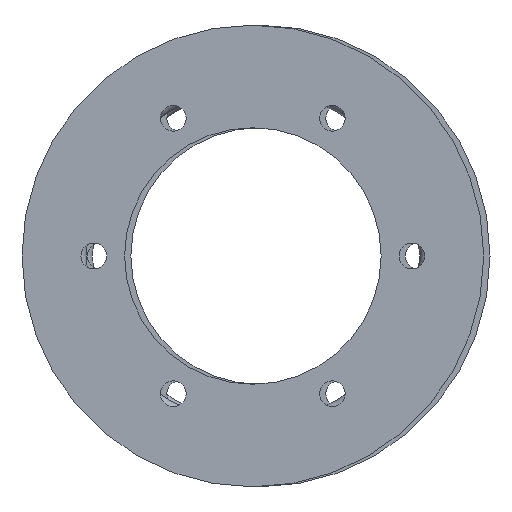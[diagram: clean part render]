
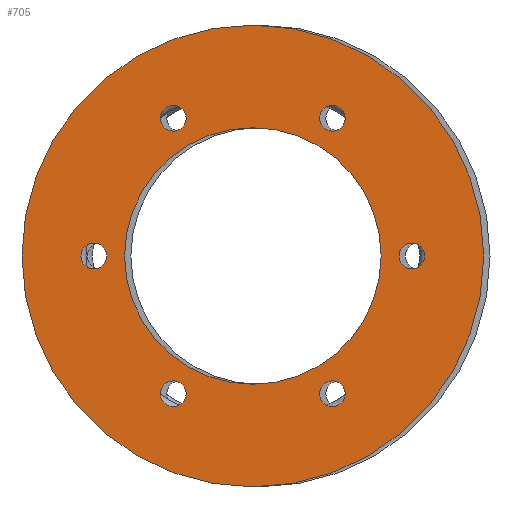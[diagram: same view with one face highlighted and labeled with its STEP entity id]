
A CAD part, left-side view. The second image highlights one B-rep face of the part: STEP entity #705.
In plain terms, the highlighted planar face has unit normal (-1, 0, 0).
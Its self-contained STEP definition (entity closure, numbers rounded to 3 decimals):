
#705 = ADVANCED_FACE( 'NONE', ( #1066, #1067, #1068, #1069, #1070, #1071, #1072, #1073 ), #1074, .F. );
#1066 = FACE_OUTER_BOUND( '', #1218, .T. );
#1067 = FACE_BOUND( '', #1219, .T. );
#1068 = FACE_BOUND( '', #1220, .T. );
#1069 = FACE_BOUND( '', #1221, .T. );
#1070 = FACE_BOUND( '', #1222, .T. );
#1071 = FACE_BOUND( '', #1223, .T. );
#1072 = FACE_BOUND( '', #1224, .T. );
#1073 = FACE_BOUND( '', #1225, .T. );
#1074 = PLANE( '', #1226 );
#1218 = EDGE_LOOP( '', ( #1439 ) );
#1219 = EDGE_LOOP( '', ( #1440 ) );
#1220 = EDGE_LOOP( '', ( #1441 ) );
#1221 = EDGE_LOOP( '', ( #1442 ) );
#1222 = EDGE_LOOP( '', ( #1443 ) );
#1223 = EDGE_LOOP( '', ( #1444 ) );
#1224 = EDGE_LOOP( '', ( #1445 ) );
#1225 = EDGE_LOOP( '', ( #1446 ) );
#1226 = AXIS2_PLACEMENT_3D( '', #1447, #1448, #1449 );
#1439 = ORIENTED_EDGE( '', *, *, #1636, .T. );
#1440 = ORIENTED_EDGE( '', *, *, #1625, .F. );
#1441 = ORIENTED_EDGE( '', *, *, #1637, .F. );
#1442 = ORIENTED_EDGE( '', *, *, #1635, .F. );
#1443 = ORIENTED_EDGE( '', *, *, #1638, .F. );
#1444 = ORIENTED_EDGE( '', *, *, #1639, .F. );
#1445 = ORIENTED_EDGE( '', *, *, #1627, .F. );
#1446 = ORIENTED_EDGE( '', *, *, #1640, .F. );
#1447 = CARTESIAN_POINT( '', ( 0., 25., 0. ) );
#1448 = DIRECTION( '', ( 1., 0., 0. ) );
#1449 = DIRECTION( '', ( 0., 1., 0. ) );
#1625 = EDGE_CURVE( 'NONE', #1806, #1806, #1807, .T. );
#1627 = EDGE_CURVE( 'NONE', #1810, #1810, #1811, .T. );
#1635 = EDGE_CURVE( 'NONE', #1826, #1826, #1827, .T. );
#1636 = EDGE_CURVE( 'NONE', #1828, #1828, #1829, .T. );
#1637 = EDGE_CURVE( 'NONE', #1830, #1830, #1831, .T. );
#1638 = EDGE_CURVE( 'NONE', #1832, #1832, #1833, .T. );
#1639 = EDGE_CURVE( 'NONE', #1834, #1834, #1835, .T. );
#1640 = EDGE_CURVE( 'NONE', #1836, #1836, #1837, .T. );
#1806 = VERTEX_POINT( '', #1838 );
#1807 = CIRCLE( '', #1839, 2.5 );
#1810 = VERTEX_POINT( '', #1842 );
#1811 = CIRCLE( '', #1843, 2.5 );
#1826 = VERTEX_POINT( '', #1858 );
#1827 = CIRCLE( '', #1859, 2.5 );
#1828 = VERTEX_POINT( '', #1860 );
#1829 = CIRCLE( '', #1861, 45. );
#1830 = VERTEX_POINT( '', #1862 );
#1831 = CIRCLE( '', #1863, 2.5 );
#1832 = VERTEX_POINT( '', #1864 );
#1833 = CIRCLE( '', #1865, 2.5 );
#1834 = VERTEX_POINT( '', #1866 );
#1835 = CIRCLE( '', #1867, 25. );
#1836 = VERTEX_POINT( '', #1868 );
#1837 = CIRCLE( '', #1869, 2.5 );
#1838 = CARTESIAN_POINT( '', ( 0., -15.5, 29.347 ) );
#1839 = AXIS2_PLACEMENT_3D( '', #1870, #1871, #1872 );
#1842 = CARTESIAN_POINT( '', ( 0., -31., 2.5 ) );
#1843 = AXIS2_PLACEMENT_3D( '', #1876, #1877, #1878 );
#1858 = CARTESIAN_POINT( '', ( 0., 15.5, -24.347 ) );
#1859 = AXIS2_PLACEMENT_3D( '', #1900, #1901, #1902 );
#1860 = CARTESIAN_POINT( '', ( 0., 0., 45. ) );
#1861 = AXIS2_PLACEMENT_3D( '', #1903, #1904, #1905 );
#1862 = CARTESIAN_POINT( '', ( 0., -15.5, -24.347 ) );
#1863 = AXIS2_PLACEMENT_3D( '', #1906, #1907, #1908 );
#1864 = CARTESIAN_POINT( '', ( 0., 31., 2.5 ) );
#1865 = AXIS2_PLACEMENT_3D( '', #1909, #1910, #1911 );
#1866 = CARTESIAN_POINT( '', ( 0., 0., 25. ) );
#1867 = AXIS2_PLACEMENT_3D( '', #1912, #1913, #1914 );
#1868 = CARTESIAN_POINT( '', ( 0., 15.5, 29.347 ) );
#1869 = AXIS2_PLACEMENT_3D( '', #1915, #1916, #1917 );
#1870 = CARTESIAN_POINT( '', ( 0., -15.5, 26.847 ) );
#1871 = DIRECTION( '', ( -1., 0., 0. ) );
#1872 = DIRECTION( '', ( 0., 0., 1. ) );
#1876 = CARTESIAN_POINT( '', ( 0., -31., 0. ) );
#1877 = DIRECTION( '', ( -1., 0., 0. ) );
#1878 = DIRECTION( '', ( 0., 0., 1. ) );
#1900 = CARTESIAN_POINT( '', ( 0., 15.5, -26.847 ) );
#1901 = DIRECTION( '', ( -1., 0., 0. ) );
#1902 = DIRECTION( '', ( 0., 0., 1. ) );
#1903 = CARTESIAN_POINT( '', ( 0., 0., 0. ) );
#1904 = DIRECTION( '', ( -1., 0., 0. ) );
#1905 = DIRECTION( '', ( 0., 0., 1. ) );
#1906 = CARTESIAN_POINT( '', ( 0., -15.5, -26.847 ) );
#1907 = DIRECTION( '', ( -1., 0., 0. ) );
#1908 = DIRECTION( '', ( 0., 0., 1. ) );
#1909 = CARTESIAN_POINT( '', ( 0., 31., 0. ) );
#1910 = DIRECTION( '', ( -1., 0., 0. ) );
#1911 = DIRECTION( '', ( 0., 0., 1. ) );
#1912 = CARTESIAN_POINT( '', ( 0., 0., 0. ) );
#1913 = DIRECTION( '', ( -1., 0., 0. ) );
#1914 = DIRECTION( '', ( 0., 0., 1. ) );
#1915 = CARTESIAN_POINT( '', ( 0., 15.5, 26.847 ) );
#1916 = DIRECTION( '', ( -1., 0., 0. ) );
#1917 = DIRECTION( '', ( 0., 0., 1. ) );
